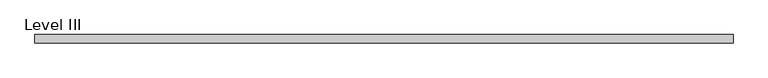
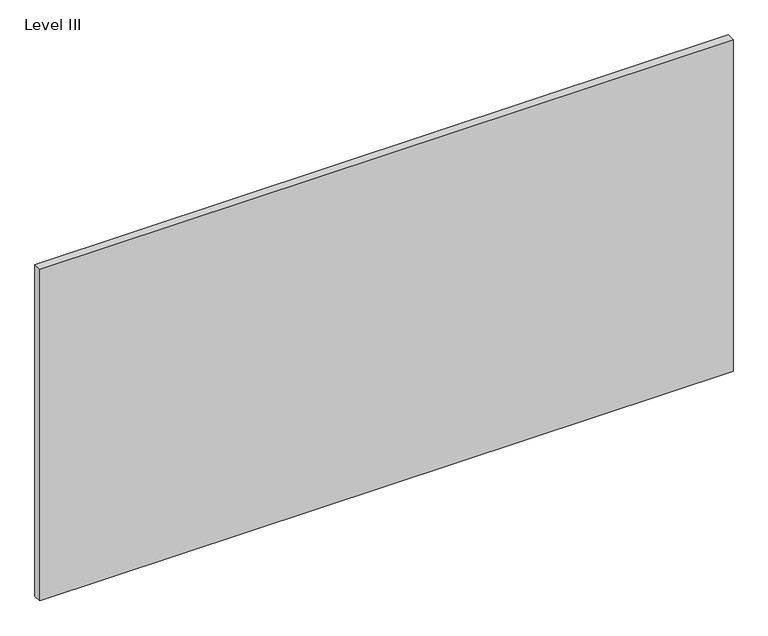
"""IFC4 building model written with IfcOpenShell, lengths in millimetres: proxy geometry, Panel-Fascia-Teknion-Altos-Landscape : Level III."""

from ifc_helpers import new_model, si_unit, frame, origin, place, context, project, spatial, polyline, outline, extrude, source, transform, mapped, element, save


def level_iii_d1689ffa(model_context):
    return source(origin(), model_context, "Body", "SweptSolid", [
        extrude(outline(polyline([(795.6407125, -9.525), (-795.6407125, -9.525), (-795.6407125, 9.525), (795.6407125, 9.525), (795.6407125, -9.525)])), frame((0.0, 0.0, 3.175), z_axis=(0.0, 0.0, 1.0), x_axis=(1.0, 0.0, 0.0)), (0.0, 0.0, 1.0), 804.418),
    ])


if __name__ == "__main__":
    model = new_model("IFC4")
    model_context = context("Model", 3, world=origin())
    ifc_project = project(units=[si_unit("LENGTHUNIT", "METRE", prefix="MILLI")], contexts=[model_context])
    site = spatial("IfcSite", under=ifc_project)
    building = spatial("IfcBuilding", under=site)
    placement = place(None, origin())
    level_iii_shape = level_iii_d1689ffa(model_context)
    element("IfcBuildingElementProxy", 1, Name="Panel-Fascia-Teknion-Altos-Landscape : Level III", ObjectType="Panel-Fascia-Teknion-Altos-Landscape : Level III", at=placement, inside=building, context=model_context, shape_type="MappedRepresentation", body=[
        mapped(level_iii_shape, transform((0.0, 0.0, 0.0), x_axis=(1.0, 0.0, 0.0), y_axis=(0.0, 1.0, 0.0), z_axis=(0.0, 0.0, 1.0))),
    ])
    save(model, "model.ifc")
